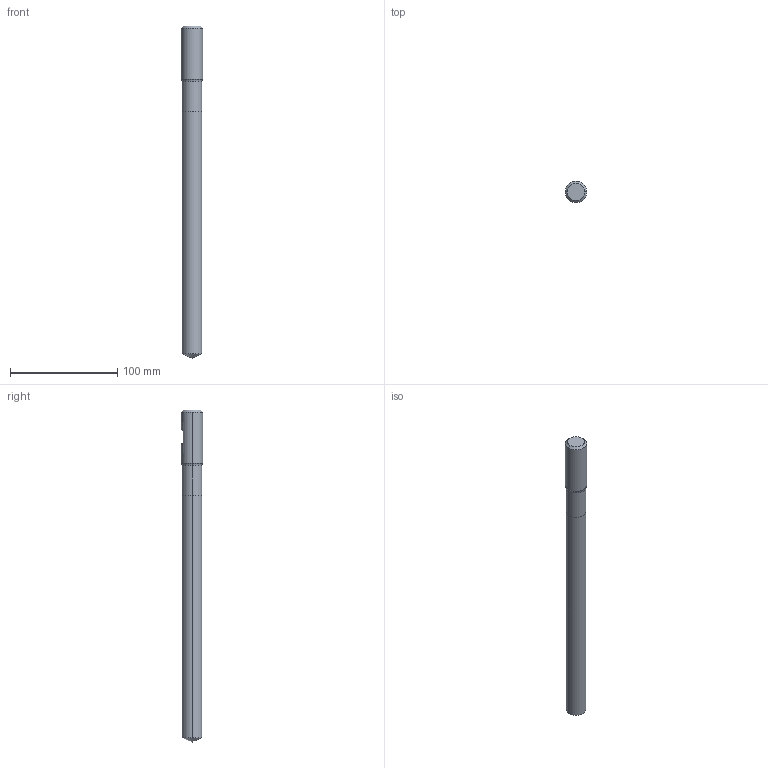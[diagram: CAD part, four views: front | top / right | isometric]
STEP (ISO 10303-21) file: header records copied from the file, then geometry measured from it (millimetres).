
FILE_DESCRIPTION (( 'STEP AP214' ), '1' );
FILE_NAME ('710.185.10_3D-model.step', '2022-02-22T18:05:59', ( '' ), ( '' ), 'SwSTEP 2.0', 'SolidWorks 2020', '' );
FILE_SCHEMA (( 'AUTOMOTIVE_DESIGN' ));
Length unit declared in the file: millimetre
Products named in the file (3): 710.185.10_3D-model; CUT-3D^Baugr4; NOCUT-3D^Baugr4
Assembly tree (2 placements, depth 2):
  710.185.10_3D-model
    CUT-3D^Baugr4
    NOCUT-3D^Baugr4
Bounding box: 20 x 20 x 310 mm (x, y, z)
Volume: 84636.5 mm3; surface area: 19107.5 mm2
Topology: 2 solids, 2 shells, 20 faces, 38 edges, 21 vertices
Faces by surface type: cone 6, cylinder 6, plane 6, torus 2
Entity records: 608 total; most frequent: DIRECTION 108, CARTESIAN_POINT 91, ORIENTED_EDGE 72, AXIS2_PLACEMENT_3D 46, EDGE_CURVE 36, EDGE_LOOP 21, VERTEX_POINT 21, FACE_OUTER_BOUND 20
